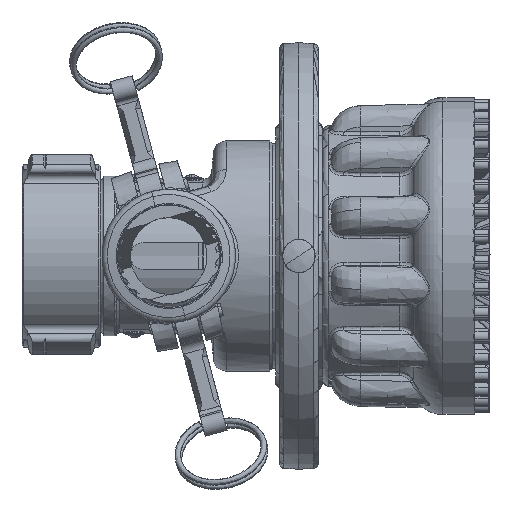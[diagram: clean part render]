
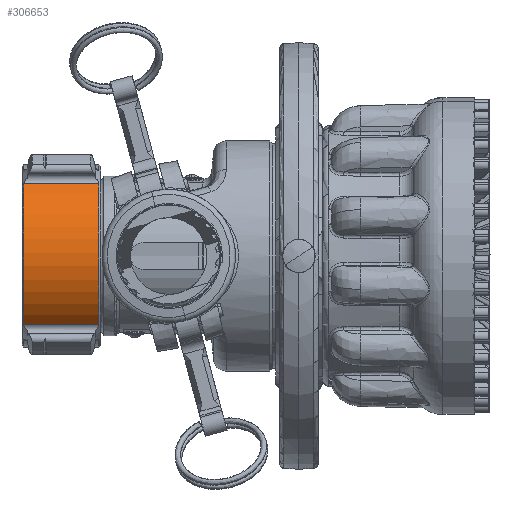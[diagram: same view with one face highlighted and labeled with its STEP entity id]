
A CAD part, front view. The second image highlights one B-rep face of the part: STEP entity #306653.
In plain terms, the highlighted cylindrical face has radius 45.212 mm (diameter 90.424 mm), a partial arc.
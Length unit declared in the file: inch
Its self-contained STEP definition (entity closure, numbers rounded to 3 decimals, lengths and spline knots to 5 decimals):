
#1171 = CARTESIAN_POINT ( 'NONE',  ( 0.80984, 0., 0. ) ) ;
#3335 = ORIENTED_EDGE ( 'NONE', *, *, #493279, .F. ) ;
#23232 = ORIENTED_EDGE ( 'NONE', *, *, #153950, .F. ) ;
#29869 = EDGE_CURVE ( 'NONE', #518914, #68511, #130321, .T. ) ;
#42544 = DIRECTION ( 'NONE',  ( 1., 0., 0. ) ) ;
#48884 = CYLINDRICAL_SURFACE ( 'NONE', #300297, 1.78 ) ;
#55427 = LINE ( 'NONE', #393211, #512915 ) ;
#56753 = AXIS2_PLACEMENT_3D ( 'NONE', #129735, #263409, #402737 ) ;
#57925 = VERTEX_POINT ( 'NONE', #234116 ) ;
#68511 = VERTEX_POINT ( 'NONE', #139277 ) ;
#129735 = CARTESIAN_POINT ( 'NONE',  ( -0.66016, 0., 0. ) ) ;
#130321 = LINE ( 'NONE', #515905, #490523 ) ;
#133346 = DIRECTION ( 'NONE',  ( 0., 0.999, -0.035 ) ) ;
#139277 = CARTESIAN_POINT ( 'NONE',  ( 0.80984, -1.16653, -1.34447 ) ) ;
#153950 = EDGE_CURVE ( 'NONE', #403315, #57925, #503557, .T. ) ;
#158433 = AXIS2_PLACEMENT_3D ( 'NONE', #1171, #353705, #528126 ) ;
#162358 = DIRECTION ( 'NONE',  ( -1., 0., 0. ) ) ;
#200867 = CARTESIAN_POINT ( 'NONE',  ( -0.66016, -1.08176, 1.41357 ) ) ;
#223154 = ORIENTED_EDGE ( 'NONE', *, *, #543932, .F. ) ;
#224081 = CARTESIAN_POINT ( 'NONE',  ( 0.80984, 0., 0. ) ) ;
#227821 = DIRECTION ( 'NONE',  ( 0., -0.035, -0.999 ) ) ;
#234116 = CARTESIAN_POINT ( 'NONE',  ( 0.80984, -1.77888, 0.06308 ) ) ;
#250537 = DIRECTION ( 'NONE',  ( 1., 0., 0. ) ) ;
#253812 = ORIENTED_EDGE ( 'NONE', *, *, #29869, .T. ) ;
#263409 = DIRECTION ( 'NONE',  ( -1., 0., 0. ) ) ;
#266045 = CARTESIAN_POINT ( 'NONE',  ( -0.66016, -1.77888, 0.06308 ) ) ;
#267181 = CIRCLE ( 'NONE', #362154, 1.78 ) ;
#268633 = DIRECTION ( 'NONE',  ( 1., 0., 0. ) ) ;
#291252 = VERTEX_POINT ( 'NONE', #200867 ) ;
#298847 = CARTESIAN_POINT ( 'NONE',  ( -0.66016, -1.16653, -1.34447 ) ) ;
#300297 = AXIS2_PLACEMENT_3D ( 'NONE', #406017, #320773, #227821 ) ;
#306653 = ADVANCED_FACE ( 'NONE', ( #381837 ), #48884, .T. ) ;
#320773 = DIRECTION ( 'NONE',  ( 1., 0., 0. ) ) ;
#339144 = CIRCLE ( 'NONE', #158433, 1.78 ) ;
#348492 = CARTESIAN_POINT ( 'NONE',  ( -0.66016, 0., 0. ) ) ;
#353705 = DIRECTION ( 'NONE',  ( 1., 0., 0. ) ) ;
#362154 = AXIS2_PLACEMENT_3D ( 'NONE', #348492, #162358, #133346 ) ;
#376345 = AXIS2_PLACEMENT_3D ( 'NONE', #224081, #268633, #537820 ) ;
#381837 = FACE_OUTER_BOUND ( 'NONE', #465340, .T. ) ;
#393211 = CARTESIAN_POINT ( 'NONE',  ( -0.74516, -1.08176, 1.41357 ) ) ;
#402737 = DIRECTION ( 'NONE',  ( 0., 0.999, -0.035 ) ) ;
#403315 = VERTEX_POINT ( 'NONE', #501903 ) ;
#406017 = CARTESIAN_POINT ( 'NONE',  ( -0.74516, 0., 0. ) ) ;
#424390 = EDGE_CURVE ( 'NONE', #57925, #68511, #339144, .T. ) ;
#428924 = VERTEX_POINT ( 'NONE', #266045 ) ;
#465340 = EDGE_LOOP ( 'NONE', ( #483993, #253812, #472794, #23232, #223154, #3335 ) ) ;
#472794 = ORIENTED_EDGE ( 'NONE', *, *, #424390, .F. ) ;
#477977 = EDGE_CURVE ( 'NONE', #518914, #428924, #497460, .T. ) ;
#483993 = ORIENTED_EDGE ( 'NONE', *, *, #477977, .F. ) ;
#490523 = VECTOR ( 'NONE', #250537, 39.37008 ) ;
#493279 = EDGE_CURVE ( 'NONE', #428924, #291252, #267181, .T. ) ;
#497460 = CIRCLE ( 'NONE', #56753, 1.78 ) ;
#501903 = CARTESIAN_POINT ( 'NONE',  ( 0.80984, -1.08176, 1.41357 ) ) ;
#503557 = CIRCLE ( 'NONE', #376345, 1.78 ) ;
#512915 = VECTOR ( 'NONE', #42544, 39.37008 ) ;
#515905 = CARTESIAN_POINT ( 'NONE',  ( -0.74516, -1.16653, -1.34447 ) ) ;
#518914 = VERTEX_POINT ( 'NONE', #298847 ) ;
#528126 = DIRECTION ( 'NONE',  ( 0., -0.999, 0.035 ) ) ;
#537820 = DIRECTION ( 'NONE',  ( 0., -0.999, 0.035 ) ) ;
#543932 = EDGE_CURVE ( 'NONE', #291252, #403315, #55427, .T. ) ;
